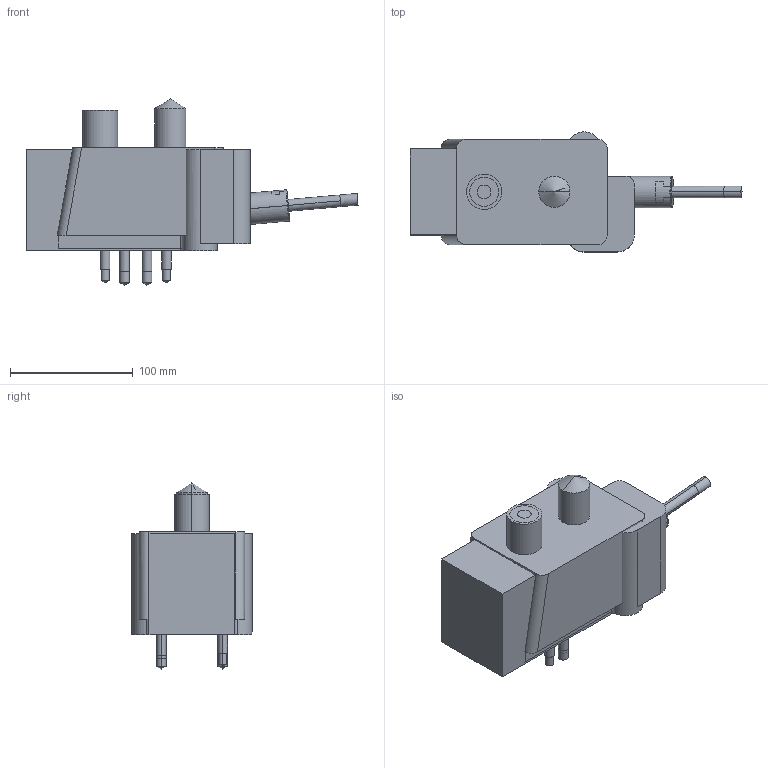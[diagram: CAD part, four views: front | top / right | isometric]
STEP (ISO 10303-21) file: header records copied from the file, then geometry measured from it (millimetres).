
FILE_DESCRIPTION((' '),'2;1');
FILE_NAME( 'EZ-05-P-L.stp', '2023-11-30T09:06:14', (' '), ('--- Datakit www.datakit.com---'), ' Datakit CrossCadWare V2020.4 Oct 21 2020', 'Export from SolidLink (Hexagon Production Software)', ' ');
FILE_SCHEMA(('AP242_MANAGED_MODEL_BASED_3D_ENGINEERING_MIM_LF { 1 0 10303 442 1 1 4 }'));
Length unit declared in the file: millimetre
Products named in the file (128): Workplanes; 1700579057; 1679433680; 1700503515; 1700503621; 1679425384; 1679425385; 1679425386; 1679425387; 1679425388; 1679425407; 1679425414; 1679425416; 1679425419; 1679425422; 1679425423; 1679425424; 1700840724; 1700840826; 1701270901; 1701353246; 1701353247; 1701353248; 1701353249; 1701353250; 1701353251; 1701353252; 1701353253; 1701353254; 1701353255; 1701353256; 1701353257; 1701353258; 1701353259; 1701353260; 1701353261; 1701353262; 1701353263; 1701353264; 1701353265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
Bounding box: 270.29 x 97.75 x 151.64 mm (x, y, z)
Volume: 2658956.6 mm3; surface area: 238092.4 mm2
Topology: 18 solids, 19 shells, 472 faces, 1333 edges, 1118 vertices
Faces by surface type: cylinder 184, plane 166, cone 102, sphere 6, torus 6, bspline 4, revolution 4
Entity records: 21141 total; most frequent: CARTESIAN_POINT 7461, DIRECTION 2744, ORIENTED_EDGE 2204, EDGE_CURVE 1108, AXIS2_PLACEMENT_3D 1082, VERTEX_POINT 708, VECTOR 576, LINE 576
